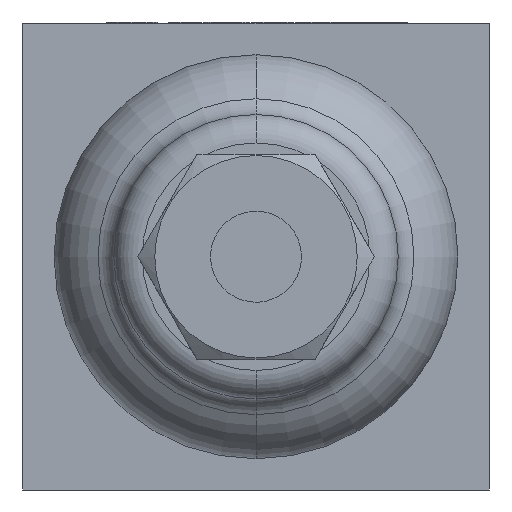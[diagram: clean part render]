
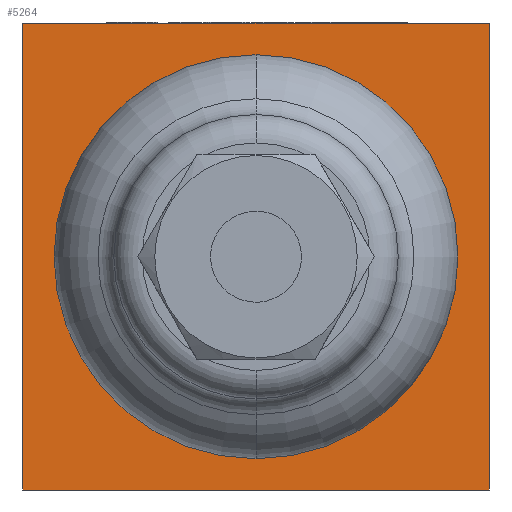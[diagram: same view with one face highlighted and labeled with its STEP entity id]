
A CAD part, front view. The second image highlights one B-rep face of the part: STEP entity #5264.
In plain terms, the highlighted planar face has unit normal (0, -1, 0).
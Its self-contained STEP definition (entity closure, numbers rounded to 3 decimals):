
#72 = LINE ( 'NONE', #6419, #4598 ) ;
#87 = VECTOR ( 'NONE', #1506, 1000. ) ;
#116 = VERTEX_POINT ( 'NONE', #4230 ) ;
#798 = ORIENTED_EDGE ( 'NONE', *, *, #1243, .F. ) ;
#1243 = EDGE_CURVE ( 'NONE', #116, #6608, #2553, .T. ) ;
#1432 = VERTEX_POINT ( 'NONE', #6392 ) ;
#1446 = CARTESIAN_POINT ( 'NONE',  ( 20.5, -20.5, 20.5 ) ) ;
#1451 = FACE_OUTER_BOUND ( 'NONE', #1799, .T. ) ;
#1506 = DIRECTION ( 'NONE',  ( 1., 0., 0. ) ) ;
#1799 = EDGE_LOOP ( 'NONE', ( #3704, #2464, #798, #6625 ) ) ;
#1849 = VERTEX_POINT ( 'NONE', #6425 ) ;
#2029 = LINE ( 'NONE', #4389, #5405 ) ;
#2031 = EDGE_CURVE ( 'NONE', #1432, #1849, #3345, .T. ) ;
#2357 = DIRECTION ( 'NONE',  ( 0., 0., -1. ) ) ;
#2458 = DIRECTION ( 'NONE',  ( 0., 0., 1. ) ) ;
#2464 = ORIENTED_EDGE ( 'NONE', *, *, #4084, .F. ) ;
#2553 = LINE ( 'NONE', #2706, #4813 ) ;
#2706 = CARTESIAN_POINT ( 'NONE',  ( -20.5, -20.5, 20.5 ) ) ;
#2983 = PLANE ( 'NONE',  #3554 ) ;
#3345 = LINE ( 'NONE', #3597, #87 ) ;
#3458 = EDGE_CURVE ( 'NONE', #116, #1432, #72, .T. ) ;
#3503 = DIRECTION ( 'NONE',  ( 0., 1., 0. ) ) ;
#3548 = CARTESIAN_POINT ( 'NONE',  ( -20.5, -20.5, 20.5 ) ) ;
#3554 = AXIS2_PLACEMENT_3D ( 'NONE', #3548, #3503, #2458 ) ;
#3597 = CARTESIAN_POINT ( 'NONE',  ( -20.5, -20.5, -20.5 ) ) ;
#3704 = ORIENTED_EDGE ( 'NONE', *, *, #2031, .T. ) ;
#4084 = EDGE_CURVE ( 'NONE', #6608, #1849, #2029, .T. ) ;
#4230 = CARTESIAN_POINT ( 'NONE',  ( -20.5, -20.5, 20.5 ) ) ;
#4235 = DIRECTION ( 'NONE',  ( 1., 0., 0. ) ) ;
#4389 = CARTESIAN_POINT ( 'NONE',  ( 20.5, -20.5, 20.5 ) ) ;
#4598 = VECTOR ( 'NONE', #5336, 1000. ) ;
#4813 = VECTOR ( 'NONE', #4235, 1000. ) ;
#5264 = ADVANCED_FACE ( 'NONE', ( #1451 ), #2983, .F. ) ;
#5336 = DIRECTION ( 'NONE',  ( 0., 0., -1. ) ) ;
#5405 = VECTOR ( 'NONE', #2357, 1000. ) ;
#6392 = CARTESIAN_POINT ( 'NONE',  ( -20.5, -20.5, -20.5 ) ) ;
#6419 = CARTESIAN_POINT ( 'NONE',  ( -20.5, -20.5, 20.5 ) ) ;
#6425 = CARTESIAN_POINT ( 'NONE',  ( 20.5, -20.5, -20.5 ) ) ;
#6608 = VERTEX_POINT ( 'NONE', #1446 ) ;
#6625 = ORIENTED_EDGE ( 'NONE', *, *, #3458, .T. ) ;
